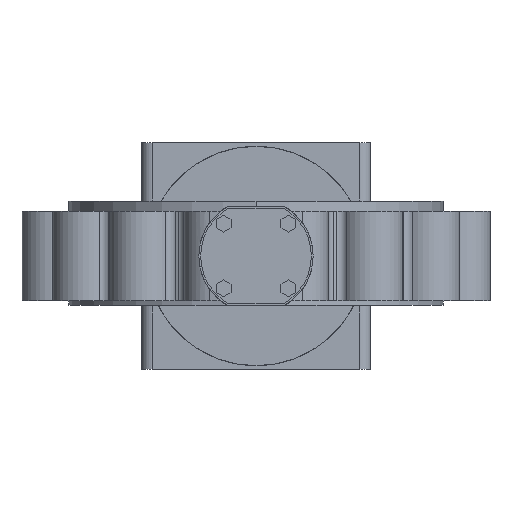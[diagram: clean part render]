
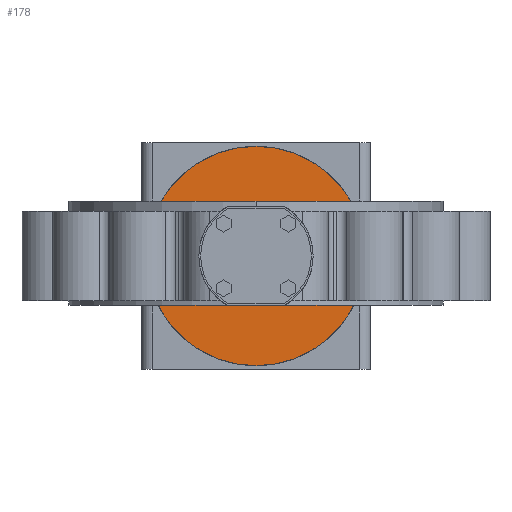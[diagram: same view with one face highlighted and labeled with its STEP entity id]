
A CAD part, front view. The second image highlights one B-rep face of the part: STEP entity #178.
In plain terms, the highlighted planar face has unit normal (0, -1, 0).
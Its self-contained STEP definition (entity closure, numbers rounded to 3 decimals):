
#178 = ADVANCED_FACE( '', ( #608, #609 ), #610, .T. );
#608 = FACE_OUTER_BOUND( '', #1301, .T. );
#609 = FACE_BOUND( '', #1302, .T. );
#610 = PLANE( '', #1303 );
#1301 = EDGE_LOOP( '', ( #2562, #2563 ) );
#1302 = EDGE_LOOP( '', ( #2564, #2565, #2566, #2567 ) );
#1303 = AXIS2_PLACEMENT_3D( '', #2568, #2569, #2570 );
#2562 = ORIENTED_EDGE( '', *, *, #4532, .F. );
#2563 = ORIENTED_EDGE( '', *, *, #4710, .F. );
#2564 = ORIENTED_EDGE( '', *, *, #4711, .T. );
#2565 = ORIENTED_EDGE( '', *, *, #4712, .T. );
#2566 = ORIENTED_EDGE( '', *, *, #4713, .T. );
#2567 = ORIENTED_EDGE( '', *, *, #4714, .T. );
#2568 = CARTESIAN_POINT( '', ( 72., 411., 0. ) );
#2569 = DIRECTION( '', ( 0., -1., 0. ) );
#2570 = DIRECTION( '', ( -1., 0., 0. ) );
#4532 = EDGE_CURVE( '', #5516, #5519, #5520, .T. );
#4710 = EDGE_CURVE( '', #5519, #5516, #5808, .T. );
#4711 = EDGE_CURVE( '', #5809, #5810, #5811, .T. );
#4712 = EDGE_CURVE( '', #5810, #5812, #5813, .T. );
#4713 = EDGE_CURVE( '', #5812, #5814, #5815, .T. );
#4714 = EDGE_CURVE( '', #5814, #5809, #5816, .T. );
#5516 = VERTEX_POINT( '', #7418 );
#5519 = VERTEX_POINT( '', #7422 );
#5520 = CIRCLE( '', #7423, 120. );
#5808 = CIRCLE( '', #8104, 120. );
#5809 = VERTEX_POINT( '', #8105 );
#5810 = VERTEX_POINT( '', #8106 );
#5811 = LINE( '', #8107, #8108 );
#5812 = VERTEX_POINT( '', #8109 );
#5813 = LINE( '', #8110, #8111 );
#5814 = VERTEX_POINT( '', #8112 );
#5815 = LINE( '', #8113, #8114 );
#5816 = LINE( '', #8115, #8116 );
#7418 = CARTESIAN_POINT( '', ( 120., 411., 0. ) );
#7422 = CARTESIAN_POINT( '', ( -120., 411., 0. ) );
#7423 = AXIS2_PLACEMENT_3D( '', #9614, #9615, #9616 );
#8104 = AXIS2_PLACEMENT_3D( '', #9957, #9958, #9959 );
#8105 = CARTESIAN_POINT( '', ( -55., 411., 44. ) );
#8106 = CARTESIAN_POINT( '', ( 55., 411., 44. ) );
#8107 = CARTESIAN_POINT( '', ( -55., 411., 44. ) );
#8108 = VECTOR( '', #9960, 1. );
#8109 = CARTESIAN_POINT( '', ( 55., 411., -44. ) );
#8110 = CARTESIAN_POINT( '', ( 55., 411., 44. ) );
#8111 = VECTOR( '', #9961, 1. );
#8112 = CARTESIAN_POINT( '', ( -55., 411., -44. ) );
#8113 = CARTESIAN_POINT( '', ( 55., 411., -44. ) );
#8114 = VECTOR( '', #9962, 1. );
#8115 = CARTESIAN_POINT( '', ( -55., 411., -44. ) );
#8116 = VECTOR( '', #9963, 1. );
#9614 = CARTESIAN_POINT( '', ( 0., 411., 0. ) );
#9615 = DIRECTION( '', ( 0., 1., 0. ) );
#9616 = DIRECTION( '', ( 1., 0., 0. ) );
#9957 = CARTESIAN_POINT( '', ( 0., 411., 0. ) );
#9958 = DIRECTION( '', ( 0., 1., 0. ) );
#9959 = DIRECTION( '', ( 1., 0., 0. ) );
#9960 = DIRECTION( '', ( 1., 0., 0. ) );
#9961 = DIRECTION( '', ( 0., 0., -1. ) );
#9962 = DIRECTION( '', ( -1., 0., 0. ) );
#9963 = DIRECTION( '', ( 0., 0., 1. ) );
